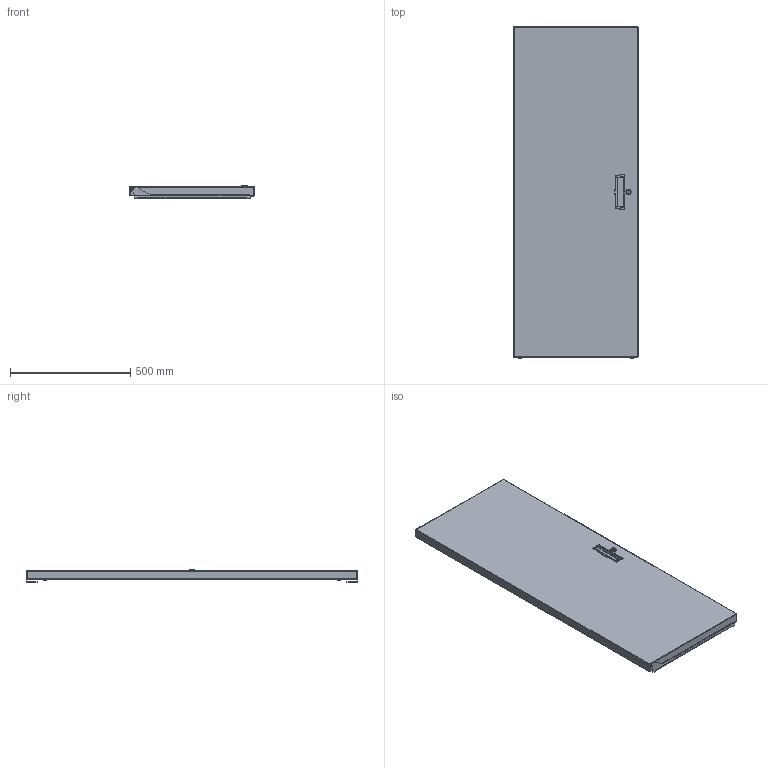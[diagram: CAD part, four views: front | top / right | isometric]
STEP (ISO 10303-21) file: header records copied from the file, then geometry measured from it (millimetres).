
FILE_DESCRIPTION((''),'2;1');
FILE_NAME('DO-5-29_ASM','2023-12-28T',('mrodri2d'),('Middle Atlantic Products'),'CREO PARAMETRIC BY PTC INC, 2018360','CREO PARAMETRIC BY PTC INC, 2018360','');
FILE_SCHEMA(('CONFIG_CONTROL_DESIGN'));
Length unit declared in the file: inch
Products named in the file (13): B529D; 500-00769; 500-00069; SC-1_125; LOCKCLIP; 80-050; B5DB_1; 85-009-1; P5DB1_ASM; B5DB_2; P5DB2_ASM; 91-036; DO-5-29_ASM
Assembly tree (14 placements, depth 3):
  DO-5-29_ASM
    B529D
    500-00769
    500-00069
    SC-1_125
    LOCKCLIP
    80-050  x2
    P5DB1_ASM
      B5DB_1
      85-009-1
    P5DB2_ASM
      B5DB_2
      85-009-1
    91-036
Bounding box: 517.52 x 1380.34 x 55.73 mm (x, y, z)
Volume: 1533726.9 mm3; surface area: 1916949.1 mm2
Topology: 11 solids, 22 shells, 692 faces, 1753 edges, 1088 vertices
Faces by surface type: plane 321, cylinder 254, bspline 45, torus 38, sphere 19, cone 15
Entity records: 25490 total; most frequent: CARTESIAN_POINT 9573, ORIENTED_EDGE 3295, DIRECTION 3126, EDGE_CURVE 1677, AXIS2_PLACEMENT_3D 1080, VERTEX_POINT 1053, VECTOR 966, LINE 966
